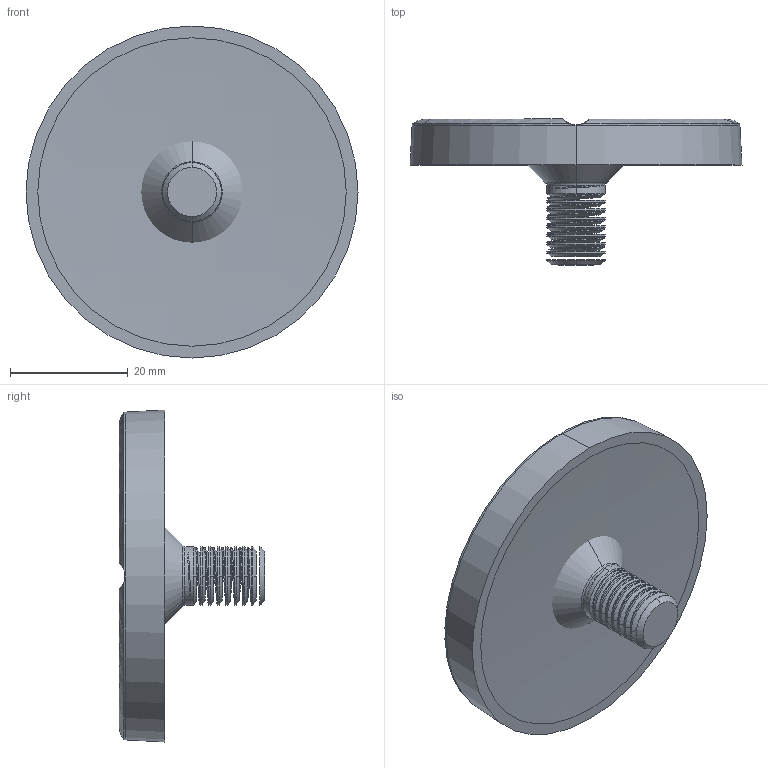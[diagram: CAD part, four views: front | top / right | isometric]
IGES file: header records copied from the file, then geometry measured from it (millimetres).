
Start section: 3D InterOp IGES (v. 2022 1.0.1), Spatial Corp. Copyright (c) 1999-2020.
Global section: file name: B137_B_06.11.055-0 Stacking Bumper F_Multifunctional Leg Bracket Curly Black.igs; native system: Spatial Corp.; preprocessor: 3D InterOp GENERIC/IGES 3.0; author: Noname; organization: Noname; date: 20251208.163346; units: millimetre
Bounding box: 56.5 x 24.8 x 56.5 mm (x, y, z)
Volume: 17697 mm3; surface area: 7473.2 mm2
Topology: 1 solids, 1 shells, 111 faces, 653 edges, 614 vertices
Faces by surface type: revolution 84, extrusion 18, cylinder 6, cone 2, bspline 1
